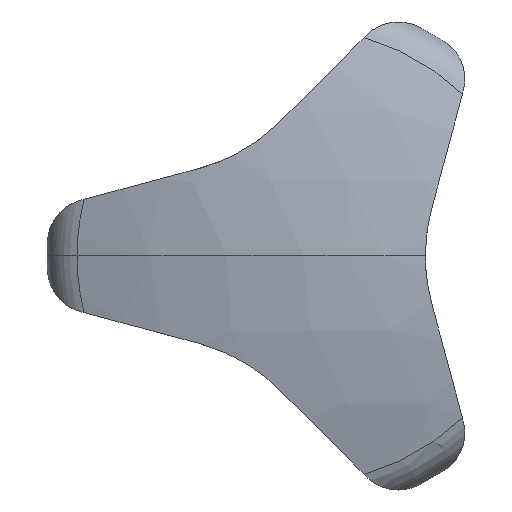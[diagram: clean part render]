
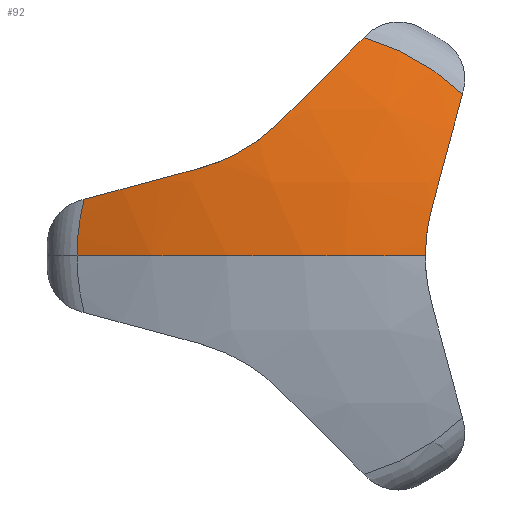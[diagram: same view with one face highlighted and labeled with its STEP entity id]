
A CAD part, left-side view. The second image highlights one B-rep face of the part: STEP entity #92.
In plain terms, the highlighted spherical face has radius 53 mm.
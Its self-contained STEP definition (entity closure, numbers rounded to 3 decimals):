
#15 = CARTESIAN_POINT ( 'NONE',  ( -22.969, -4.721, 17.024 ) ) ;
#78 = DIRECTION ( 'NONE',  ( 0., 1., 0. ) ) ;
#88 = CARTESIAN_POINT ( 'NONE',  ( 27., 0., 0. ) ) ;
#92 = ADVANCED_FACE ( 'NONE', ( #1169 ), #1549, .T. ) ;
#108 = CARTESIAN_POINT ( 'NONE',  ( -25.142, 5.27, 7.926 ) ) ;
#125 = VERTEX_POINT ( 'NONE', #1048 ) ;
#139 = CARTESIAN_POINT ( 'NONE',  ( -24.926, 8.127, 6.829 ) ) ;
#176 = CARTESIAN_POINT ( 'NONE',  ( -22.969, -12.383, 12.601 ) ) ;
#196 = DIRECTION ( 'NONE',  ( 1., 0., 0. ) ) ;
#201 = EDGE_CURVE ( 'NONE', #644, #249, #1533, .T. ) ;
#227 = CARTESIAN_POINT ( 'NONE',  ( -25.141, 3.68, 8.846 ) ) ;
#235 = CARTESIAN_POINT ( 'NONE',  ( -25.052, 6.956, 7.184 ) ) ;
#240 = DIRECTION ( 'NONE',  ( 0., -0.259, -0.966 ) ) ;
#249 = VERTEX_POINT ( 'NONE', #176 ) ;
#253 = DIRECTION ( 'NONE',  ( 0., -1., 0. ) ) ;
#268 = DIRECTION ( 'NONE',  ( 0., -0.707, 0.707 ) ) ;
#275 = AXIS2_PLACEMENT_3D ( 'NONE', #88, #1061, #1415 ) ;
#276 = AXIS2_PLACEMENT_3D ( 'NONE', #441, #196, #78 ) ;
#310 = VERTEX_POINT ( 'NONE', #1108 ) ;
#346 = CARTESIAN_POINT ( 'NONE',  ( -25.124, 5.826, 7.652 ) ) ;
#357 = CARTESIAN_POINT ( 'NONE',  ( 27., 0., 0. ) ) ;
#379 = DIRECTION ( 'NONE',  ( 0., 0., 1. ) ) ;
#421 = CARTESIAN_POINT ( 'NONE',  ( -24.926, -9.977, 3.623 ) ) ;
#441 = CARTESIAN_POINT ( 'NONE',  ( -22.969, 0., 0. ) ) ;
#453 = DIRECTION ( 'NONE',  ( 0., -0.966, 0.259 ) ) ;
#462 = CARTESIAN_POINT ( 'NONE',  ( -24.926, -9.977, 3.623 ) ) ;
#479 = AXIS2_PLACEMENT_3D ( 'NONE', #1355, #737, #268 ) ;
#487 = CARTESIAN_POINT ( 'NONE',  ( 27., 2.252, 8.403 ) ) ;
#563 = DIRECTION ( 'NONE',  ( 0., 0.259, -0.966 ) ) ;
#568 = DIRECTION ( 'NONE',  ( 0., 1., 0. ) ) ;
#592 = VERTEX_POINT ( 'NONE', #1033 ) ;
#603 = EDGE_CURVE ( 'NONE', #310, #943, #757, .T. ) ;
#611 = VERTEX_POINT ( 'NONE', #1404 ) ;
#644 = VERTEX_POINT ( 'NONE', #462 ) ;
#653 = CIRCLE ( 'NONE', #879, 53. ) ;
#689 = DIRECTION ( 'NONE',  ( 0., 0.966, 0.259 ) ) ;
#708 = AXIS2_PLACEMENT_3D ( 'NONE', #1178, #689, #563 ) ;
#714 = CARTESIAN_POINT ( 'NONE',  ( -24.926, 8.127, 6.829 ) ) ;
#716 = ORIENTED_EDGE ( 'NONE', *, *, #900, .T. ) ;
#737 = DIRECTION ( 'NONE',  ( 0., -0.707, -0.707 ) ) ;
#754 = CIRCLE ( 'NONE', #1067, 53. ) ;
#757 = CIRCLE ( 'NONE', #276, 17.667 ) ;
#775 = CARTESIAN_POINT ( 'NONE',  ( -25.123, -9.541, 1.227 ) ) ;
#787 = EDGE_CURVE ( 'NONE', #1472, #943, #1327, .T. ) ;
#878 = ORIENTED_EDGE ( 'NONE', *, *, #1393, .T. ) ;
#879 = AXIS2_PLACEMENT_3D ( 'NONE', #357, #379, #253 ) ;
#887 = EDGE_LOOP ( 'NONE', ( #1417, #1529, #1150, #1487, #1204, #716, #878, #1106, #1289 ) ) ;
#900 = EDGE_CURVE ( 'NONE', #1478, #611, #1503, .T. ) ;
#932 = CARTESIAN_POINT ( 'NONE',  ( 27., 0., 0. ) ) ;
#943 = VERTEX_POINT ( 'NONE', #1010 ) ;
#1010 = CARTESIAN_POINT ( 'NONE',  ( -22.969, 17.104, 4.423 ) ) ;
#1033 = CARTESIAN_POINT ( 'NONE',  ( -25.142, -9.5, 0. ) ) ;
#1039 = AXIS2_PLACEMENT_3D ( 'NONE', #487, #240, #453 ) ;
#1048 = CARTESIAN_POINT ( 'NONE',  ( -26., 0., 0. ) ) ;
#1061 = DIRECTION ( 'NONE',  ( 0., 0., 1. ) ) ;
#1067 = AXIS2_PLACEMENT_3D ( 'NONE', #932, #1433, #1078 ) ;
#1078 = DIRECTION ( 'NONE',  ( -1., 0., 0. ) ) ;
#1089 = CARTESIAN_POINT ( 'NONE',  ( -24.926, 1.851, 10.452 ) ) ;
#1091 = EDGE_CURVE ( 'NONE', #125, #310, #754, .T. ) ;
#1106 = ORIENTED_EDGE ( 'NONE', *, *, #787, .T. ) ;
#1108 = CARTESIAN_POINT ( 'NONE',  ( -22.969, 17.667, 0. ) ) ;
#1143 = CARTESIAN_POINT ( 'NONE',  ( -24.998, -9.819, 3.033 ) ) ;
#1146 = EDGE_CURVE ( 'NONE', #1478, #249, #1428, .T. ) ;
#1150 = ORIENTED_EDGE ( 'NONE', *, *, #1200, .T. ) ;
#1169 = FACE_OUTER_BOUND ( 'NONE', #887, .T. ) ;
#1178 = CARTESIAN_POINT ( 'NONE',  ( 27., -8.403, -2.252 ) ) ;
#1200 = EDGE_CURVE ( 'NONE', #592, #644, #1475, .T. ) ;
#1204 = ORIENTED_EDGE ( 'NONE', *, *, #1146, .F. ) ;
#1289 = ORIENTED_EDGE ( 'NONE', *, *, #603, .F. ) ;
#1327 = CIRCLE ( 'NONE', #1039, 52.281 ) ;
#1334 = CARTESIAN_POINT ( 'NONE',  ( -24.998, 7.535, 6.987 ) ) ;
#1355 = CARTESIAN_POINT ( 'NONE',  ( 27., 6.151, 6.151 ) ) ;
#1371 = CARTESIAN_POINT ( 'NONE',  ( -25.142, -9.5, 0.61 ) ) ;
#1379 = CARTESIAN_POINT ( 'NONE',  ( -25.051, -9.7, 2.436 ) ) ;
#1386 = CARTESIAN_POINT ( 'NONE',  ( -25.142, -9.5, 0. ) ) ;
#1393 = EDGE_CURVE ( 'NONE', #611, #1472, #1507, .T. ) ;
#1400 = AXIS2_PLACEMENT_3D ( 'NONE', #1567, #1556, #568 ) ;
#1404 = CARTESIAN_POINT ( 'NONE',  ( -24.926, 1.851, 10.452 ) ) ;
#1415 = DIRECTION ( 'NONE',  ( 0., 1., 0. ) ) ;
#1417 = ORIENTED_EDGE ( 'NONE', *, *, #1091, .F. ) ;
#1428 = CIRCLE ( 'NONE', #1400, 17.667 ) ;
#1433 = DIRECTION ( 'NONE',  ( 0., 0., -1. ) ) ;
#1472 = VERTEX_POINT ( 'NONE', #139 ) ;
#1475 = B_SPLINE_CURVE_WITH_KNOTS ( 'NONE', 3,
 ( #1386, #1371, #775, #1379, #1143, #421 ),
 .UNSPECIFIED., .F., .F.,
 ( 4, 2, 4 ),
 ( 0.004, 0.005, 0.007 ),
 .UNSPECIFIED. ) ;
#1477 = EDGE_CURVE ( 'NONE', #125, #592, #653, .T. ) ;
#1478 = VERTEX_POINT ( 'NONE', #15 ) ;
#1487 = ORIENTED_EDGE ( 'NONE', *, *, #201, .T. ) ;
#1503 = CIRCLE ( 'NONE', #479, 52.281 ) ;
#1507 = B_SPLINE_CURVE_WITH_KNOTS ( 'NONE', 3,
 ( #1089, #1584, #227, #108, #346, #235, #1334, #714 ),
 .UNSPECIFIED., .F., .F.,
 ( 4, 2, 2, 4 ),
 ( 0., 0.004, 0.005, 0.007 ),
 .UNSPECIFIED. ) ;
#1529 = ORIENTED_EDGE ( 'NONE', *, *, #1477, .T. ) ;
#1533 = CIRCLE ( 'NONE', #708, 52.281 ) ;
#1549 = SPHERICAL_SURFACE ( 'NONE', #275, 53. ) ;
#1556 = DIRECTION ( 'NONE',  ( 1., 0., 0. ) ) ;
#1567 = CARTESIAN_POINT ( 'NONE',  ( -22.969, 0., 0. ) ) ;
#1584 = CARTESIAN_POINT ( 'NONE',  ( -25.07, 2.717, 9.586 ) ) ;
